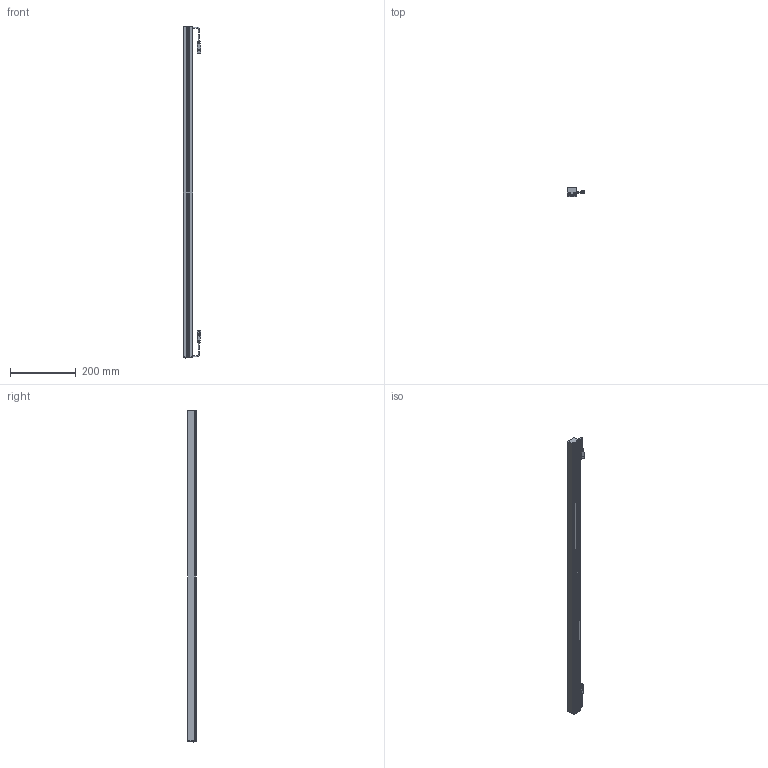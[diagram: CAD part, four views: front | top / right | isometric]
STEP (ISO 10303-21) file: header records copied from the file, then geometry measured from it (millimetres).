
FILE_DESCRIPTION((''),'2;1');
FILE_NAME('MV-LLDS-1002-28_ASM','2020-12-30T',('Administrator'),(''),'PRO/ENGINEER BY PARAMETRIC TECHNOLOGY CORPORATION, 2010100','PRO/ENGINEER BY PARAMETRIC TECHNOLOGY CORPORATION, 2010100','');
FILE_SCHEMA(('CONFIG_CONTROL_DESIGN'));
Length unit declared in the file: millimetre
Products named in the file (5): MANIFOLD_SOLID_BREP_2650; MANIFOLD_SOLID_BREP_8839; MANIFOLD_SOLID_BREP_15028; _BL-4__7; MV-LLDS-1002-28_ASM
Assembly tree (4 placements, depth 2):
  MV-LLDS-1002-28_ASM
    MANIFOLD_SOLID_BREP_2650
    MANIFOLD_SOLID_BREP_8839
    MANIFOLD_SOLID_BREP_15028
    _BL-4__7
Bounding box: 51.97 x 27 x 1006.68 mm (x, y, z)
Volume: 639210.3 mm3; surface area: 178194.6 mm2
Topology: 3 solids, 25 shells, 765 faces, 2054 edges, 1333 vertices
Faces by surface type: plane 462, cylinder 228, torus 28, sphere 17, bspline 16, cone 14
Entity records: 24715 total; most frequent: CARTESIAN_POINT 5563, ORIENTED_EDGE 3998, DIRECTION 3892, EDGE_CURVE 2036, VERTEX_POINT 1333, AXIS2_PLACEMENT_3D 1311, VECTOR 1270, LINE 1270
